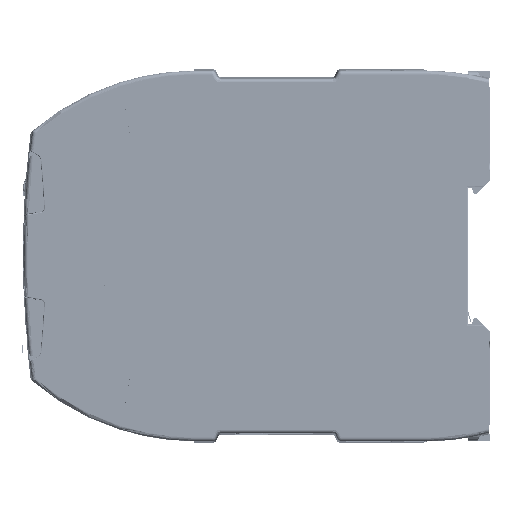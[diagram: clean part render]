
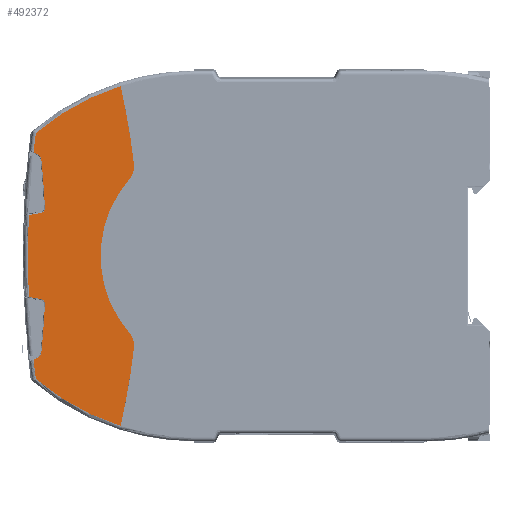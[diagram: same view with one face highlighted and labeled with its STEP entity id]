
A CAD part, left-side view. The second image highlights one B-rep face of the part: STEP entity #492372.
In plain terms, the highlighted planar face has unit normal (-1, 0, 0).
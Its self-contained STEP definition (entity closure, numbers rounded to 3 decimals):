
#131391=CARTESIAN_POINT('',(0.,94.842,-43.697));
#139107=CARTESIAN_POINT('',(0.,94.842,43.697));
#139112=DIRECTION('',(0.,0.866,-0.5));
#139113=VECTOR('',#139112,1.348);
#139114=CARTESIAN_POINT('',(0.,116.068,-26.058));
#139115=LINE('',#139114,#139113);
#139119=CARTESIAN_POINT('',(0.,116.918,-24.585));
#139120=DIRECTION('',(1.,0.,0.));
#139121=DIRECTION('',(0.,-0.995,-0.098));
#139122=AXIS2_PLACEMENT_3D('',#139119,#139120,#139121);
#139127=CARTESIAN_POINT('',(0.,366.51,0.));
#139128=DIRECTION('',(1.,0.,0.));
#139129=DIRECTION('',(0.,-0.999,-0.049));
#139130=AXIS2_PLACEMENT_3D('',#139127,#139128,#139129);
#139135=CARTESIAN_POINT('',(0.,115.51,-12.27));
#139136=DIRECTION('',(1.,0.,0.));
#139137=DIRECTION('',(0.,-0.174,0.985));
#139138=AXIS2_PLACEMENT_3D('',#139135,#139136,#139137);
#139143=DIRECTION('',(0.,-0.985,
-0.174));
#139144=VECTOR('',#139143,3.2);
#139145=CARTESIAN_POINT('',(0.,118.453,
-10.533));
#139146=LINE('',#139145,#139144);
#139150=CARTESIAN_POINT('',(0.,-129.99,0.));
#139151=DIRECTION('',(-1.,0.,0.));
#139152=DIRECTION('',(0.,0.999,0.042));
#139153=AXIS2_PLACEMENT_3D('',#139150,#139151,#139152);
#139158=DIRECTION('',(0.,0.985,-0.174));
#139159=VECTOR('',#139158,3.2);
#139160=CARTESIAN_POINT('',(0.,115.301,11.088));
#139161=LINE('',#139160,#139159);
#139165=CARTESIAN_POINT('',(0.,115.51,12.27));
#139166=DIRECTION('',(1.,0.,0.));
#139167=DIRECTION('',(0.,-0.999,0.049));
#139168=AXIS2_PLACEMENT_3D('',#139165,#139166,#139167);
#139173=CARTESIAN_POINT('',(0.,366.51,0.));
#139174=DIRECTION('',(1.,0.,0.));
#139175=DIRECTION('',(0.,-0.995,0.098));
#139176=AXIS2_PLACEMENT_3D('',#139173,#139174,#139175);
#139181=CARTESIAN_POINT('',(0.,116.918,24.585));
#139182=DIRECTION('',(1.,0.,0.));
#139183=DIRECTION('',(0.,-0.5,0.866));
#139184=AXIS2_PLACEMENT_3D('',#139181,#139182,#139183);
#139189=DIRECTION('',(0.,-0.866,
-0.5));
#139190=VECTOR('',#139189,1.348);
#139191=CARTESIAN_POINT('',(0.,117.235,
26.731));
#139192=LINE('',#139191,#139190);
#139196=CARTESIAN_POINT('',(0.,-129.99,0.));
#139197=DIRECTION('',(-1.,0.,0.));
#139198=DIRECTION('',(0.,0.992,0.127));
#139199=AXIS2_PLACEMENT_3D('',#139196,#139197,#139198);
#139204=CARTESIAN_POINT('',(0.,76.01,-15.939));
#139205=DIRECTION('',(-1.,0.,0.));
#139206=DIRECTION('',(0.,0.301,0.954));
#139207=AXIS2_PLACEMENT_3D('',#139204,#139205,#139206);
#139212=CARTESIAN_POINT('',(0.,290.01,0.));
#139213=DIRECTION('',(1.,0.,0.));
#139214=DIRECTION('',(0.,-0.976,0.218));
#139215=AXIS2_PLACEMENT_3D('',#139212,#139213,#139214);
#139220=CARTESIAN_POINT('',(0.,96.374,23.021));
#139221=DIRECTION('',(-1.,0.,0.));
#139222=DIRECTION('',(0.,-0.753,-0.658));
#139223=AXIS2_PLACEMENT_3D('',#139220,#139221,#139222);
#139228=CARTESIAN_POINT('',(0.,70.01,0.));
#139229=DIRECTION('',(1.,0.,0.));
#139230=DIRECTION('',(0.,0.753,-0.658));
#139231=AXIS2_PLACEMENT_3D('',#139228,#139229,#139230);
#139236=CARTESIAN_POINT('',(0.,96.374,-23.021));
#139237=DIRECTION('',(-1.,0.,0.));
#139238=DIRECTION('',(0.,-0.993,-0.118));
#139239=AXIS2_PLACEMENT_3D('',#139236,#139237,#139238);
#139244=CARTESIAN_POINT('',(0.,290.01,0.));
#139245=DIRECTION('',(1.,0.,0.));
#139246=DIRECTION('',(0.,-0.993,-0.118));
#139247=AXIS2_PLACEMENT_3D('',#139244,#139245,#139246);
#139252=CARTESIAN_POINT('',(0.,76.01,15.939));
#139253=DIRECTION('',(-1.,0.,0.));
#139254=DIRECTION('',(0.,0.65,-0.76));
#139255=AXIS2_PLACEMENT_3D('',#139252,#139253,#139254);
#139260=CARTESIAN_POINT('',(0.,-129.99,0.));
#139261=DIRECTION('',(-1.,0.,0.));
#139262=DIRECTION('',(0.,0.994,-0.107));
#139263=AXIS2_PLACEMENT_3D('',#139260,#139261,#139262);
#139284=CARTESIAN_POINT('',(0.,117.235,
-26.731));
#140392=CARTESIAN_POINT('',(0.,118.453,
10.533));
#301621=VERTEX_POINT('',#139107);
#301622=CARTESIAN_POINT('',(0.,116.662,31.585));
#301623=VERTEX_POINT('',#301622);
#301626=VERTEX_POINT('',#131391);
#301630=CARTESIAN_POINT('',(0.,116.662,-31.585));
#301631=VERTEX_POINT('',#301630);
#301834=CARTESIAN_POINT('',(0.,92.607,19.732));
#301835=CARTESIAN_POINT('',(0.,91.409,23.611));
#301836=VERTEX_POINT('',#301834);
#301837=VERTEX_POINT('',#301835);
#301850=CARTESIAN_POINT('',(0.,91.409,-23.611));
#301851=CARTESIAN_POINT('',(0.,92.607,-19.732));
#301852=VERTEX_POINT('',#301850);
#301853=VERTEX_POINT('',#301851);
#301947=VERTEX_POINT('',#139284);
#301949=CARTESIAN_POINT('',(0.,116.068,-26.058));
#301950=VERTEX_POINT('',#301949);
#301953=CARTESIAN_POINT('',(0.,115.226,-24.752));
#301954=VERTEX_POINT('',#301953);
#301957=CARTESIAN_POINT('',(0.,114.311,-12.329));
#301958=VERTEX_POINT('',#301957);
#301961=CARTESIAN_POINT('',(0.,115.301,-11.088));
#301962=VERTEX_POINT('',#301961);
#301965=CARTESIAN_POINT('',(0.,118.453,
-10.533));
#301966=VERTEX_POINT('',#301965);
#301969=VERTEX_POINT('',#140392);
#301971=CARTESIAN_POINT('',(0.,115.301,11.088));
#301972=VERTEX_POINT('',#301971);
#301975=CARTESIAN_POINT('',(0.,114.311,12.329));
#301976=VERTEX_POINT('',#301975);
#301979=CARTESIAN_POINT('',(0.,115.226,24.752));
#301980=VERTEX_POINT('',#301979);
#301983=CARTESIAN_POINT('',(0.,116.068,26.058));
#301984=VERTEX_POINT('',#301983);
#301987=CARTESIAN_POINT('',(0.,117.235,
26.731));
#301988=VERTEX_POINT('',#301987);
#492328=CARTESIAN_POINT('',(0.,0.01,0.));
#492329=DIRECTION('',(-1.,0.,0.));
#492330=DIRECTION('',(0.,0.,1.));
#492331=AXIS2_PLACEMENT_3D('',#492328,#492329,#492330);
#492332=PLANE('',#492331);
#492334=ORIENTED_EDGE('',*,*,#492333,.F.);
#492336=ORIENTED_EDGE('',*,*,#492335,.F.);
#492338=ORIENTED_EDGE('',*,*,#492337,.F.);
#492340=ORIENTED_EDGE('',*,*,#492339,.F.);
#492342=ORIENTED_EDGE('',*,*,#492341,.F.);
#492344=ORIENTED_EDGE('',*,*,#492343,.F.);
#492346=ORIENTED_EDGE('',*,*,#492345,.F.);
#492348=ORIENTED_EDGE('',*,*,#492347,.F.);
#492350=ORIENTED_EDGE('',*,*,#492349,.F.);
#492352=ORIENTED_EDGE('',*,*,#492351,.F.);
#492354=ORIENTED_EDGE('',*,*,#492353,.F.);
#492356=ORIENTED_EDGE('',*,*,#492355,.F.);
#492358=ORIENTED_EDGE('',*,*,#492357,.F.);
#492359=ORIENTED_EDGE('',*,*,#492286,.T.);
#492360=ORIENTED_EDGE('',*,*,#492312,.F.);
#492362=ORIENTED_EDGE('',*,*,#492361,.F.);
#492364=ORIENTED_EDGE('',*,*,#492363,.F.);
#492365=ORIENTED_EDGE('',*,*,#483525,.T.);
#492367=ORIENTED_EDGE('',*,*,#492366,.F.);
#492369=ORIENTED_EDGE('',*,*,#492368,.F.);
#492370=EDGE_LOOP('',(#492334,#492336,#492338,#492340,#492342,#492344,#492346,
#492348,#492350,#492352,#492354,#492356,#492358,#492359,#492360,#492362,#492364,
#492365,#492367,#492369));
#492371=FACE_OUTER_BOUND('',#492370,.F.);
#139123=CIRCLE('',#139122,1.7);
#139131=CIRCLE('',#139130,252.5);
#139139=CIRCLE('',#139138,1.2);
#139154=CIRCLE('',#139153,248.666);
#139169=CIRCLE('',#139168,1.2);
#139177=CIRCLE('',#139176,252.5);
#139185=CIRCLE('',#139184,1.7);
#139200=CIRCLE('',#139199,248.666);
#139208=CIRCLE('',#139207,62.539);
#139216=CIRCLE('',#139215,200.);
#139224=CIRCLE('',#139223,5.);
#139232=CIRCLE('',#139231,30.);
#139240=CIRCLE('',#139239,5.);
#139248=CIRCLE('',#139247,200.);
#139256=CIRCLE('',#139255,62.539);
#139264=CIRCLE('',#139263,248.666);
#483525=EDGE_CURVE('',#301852,#301626,#139248,.T.);
#492286=EDGE_CURVE('',#301621,#301837,#139216,.T.);
#492312=EDGE_CURVE('',#301836,#301837,#139224,.T.);
#492333=EDGE_CURVE('',#301950,#301947,#139115,.T.);
#492335=EDGE_CURVE('',#301954,#301950,#139123,.T.);
#492337=EDGE_CURVE('',#301958,#301954,#139131,.T.);
#492339=EDGE_CURVE('',#301962,#301958,#139139,.T.);
#492341=EDGE_CURVE('',#301966,#301962,#139146,.T.);
#492343=EDGE_CURVE('',#301969,#301966,#139154,.T.);
#492345=EDGE_CURVE('',#301972,#301969,#139161,.T.);
#492347=EDGE_CURVE('',#301976,#301972,#139169,.T.);
#492349=EDGE_CURVE('',#301980,#301976,#139177,.T.);
#492351=EDGE_CURVE('',#301984,#301980,#139185,.T.);
#492353=EDGE_CURVE('',#301988,#301984,#139192,.T.);
#492355=EDGE_CURVE('',#301623,#301988,#139200,.T.);
#492357=EDGE_CURVE('',#301621,#301623,#139208,.T.);
#492361=EDGE_CURVE('',#301853,#301836,#139232,.T.);
#492363=EDGE_CURVE('',#301852,#301853,#139240,.T.);
#492366=EDGE_CURVE('',#301631,#301626,#139256,.T.);
#492368=EDGE_CURVE('',#301947,#301631,#139264,.T.);
#492372=ADVANCED_FACE('',(#492371),#492332,.T.);
